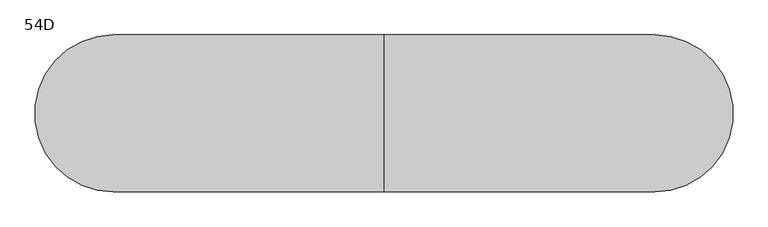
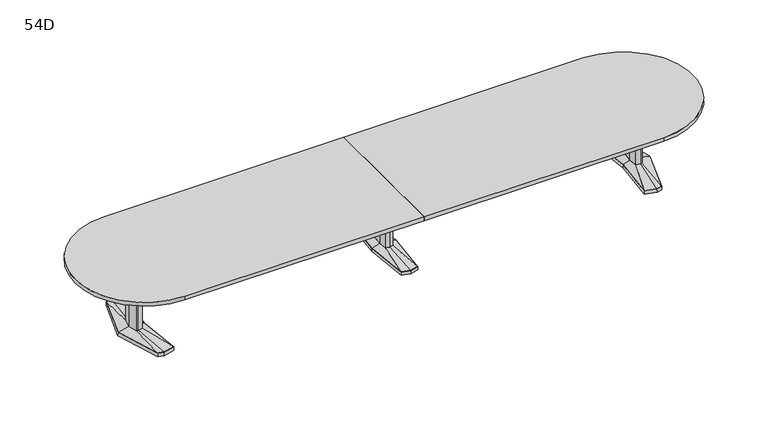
"""IFC4 building model written with IfcOpenShell, lengths in millimetres: furniture geometry, Coalesse_AM_Table_Conference_ETable2_Racetrack_20ft_AluminiumBase : 54D."""

from ifc_helpers import new_model, si_unit, point, frame, frame_2d, origin, place, context, project, spatial, polyline, circle_curve, trimmed, segment, composite_curve, outline, extrude, faceted_brep, source, transform, mapped, element, save
from ifc_brep_helpers import plane_surface, spline_surface, advanced_brep


def furniture_54d_be0ee450(model_context):
    return source(origin(), model_context, "Body", "SolidModel", [
        faceted_brep([(-81.2333791, -433.8053819, 38.1), (0.0, -455.556576, 38.1), (81.2333791, -433.8053819, 38.1), (119.0564774, 0.0, 38.1), (81.2333791, 433.8053819, 38.1), (0.0, 455.556576, 38.1), (-81.2333791, 433.8053819, 38.1), (-119.0564774, 0.0, 38.1), (-82.7182795, -435.0512063, 3.175), (-120.65, 0.0, 3.175), (-82.7182795, 435.0512063, 3.175), (0.0, 457.2, 3.175), (82.7182795, 435.0512063, 3.175), (120.65, 0.0, 3.175), (82.7182795, -435.0512063, 3.175), (0.0, -457.2, 3.175), (0.0, 429.2617927, 3.175), (-77.9676806, 408.3850278, 3.175), (-74.7019821, 382.9646737, 3.175), (0.0, 402.9670094, 3.175), (74.7019821, 382.9646737, 3.175), (77.9676806, 408.3850278, 3.175), (0.0, -429.2617927, 3.175), (77.9676806, -408.3850278, 3.175), (74.7019821, -382.9646737, 3.175), (0.0, -402.9670094, 3.175), (-74.7019821, -382.9646737, 3.175), (-77.9676806, -408.3850278, 3.175), (-71.8574262, 114.6326257, 3.175), (-82.5426076, 0.0, 3.175), (-71.8574262, -114.6326257, 3.175), (0.0, -133.8761372, 3.175), (71.8574262, -114.6326257, 3.175), (82.5426076, 0.0, 3.175), (71.8574262, 114.6326257, 3.175), (0.0, 133.8761372, 3.175), (0.0, 429.2617927, 0.0), (77.9676806, 408.3850278, 0.0), (74.7019821, 382.9646737, 0.0), (0.0, 402.9670094, 0.0), (-74.7019821, 382.9646737, 0.0), (-77.9676806, 408.3850278, 0.0), (0.0, -429.2617927, 0.0), (-77.9676806, -408.3850278, 0.0), (-74.7019821, -382.9646737, 0.0), (0.0, -402.9670094, 0.0), (74.7019821, -382.9646737, 0.0), (77.9676806, -408.3850278, 0.0), (-71.8574262, 114.6326257, 0.0), (0.0, 133.8761372, 0.0), (71.8574262, 114.6326257, 0.0), (82.5426076, 0.0, 0.0), (71.8574262, -114.6326257, 0.0), (0.0, -133.8761372, 0.0), (-71.8574262, -114.6326257, 0.0), (-82.5426076, 0.0, 0.0)], [[[0, 1, 2, 3, 4, 5, 6, 7]], [[8, 9, 10, 11, 12, 13, 14, 15], [16, 17, 18, 19, 20, 21], [22, 23, 24, 25, 26, 27], [28, 29, 30, 31, 32, 33, 34, 35]], [[1, 0, 8, 15]], [[2, 1, 15, 14]], [[3, 2, 14, 13]], [[4, 3, 13, 12]], [[5, 4, 12, 11]], [[6, 5, 11, 10]], [[7, 6, 10, 9]], [[0, 7, 9, 8]], [[36, 37, 38, 39, 40, 41]], [[42, 43, 44, 45, 46, 47]], [[48, 49, 50, 51, 52, 53, 54, 55]], [[36, 41, 17, 16]], [[41, 40, 18, 17]], [[40, 39, 19, 18]], [[39, 38, 20, 19]], [[38, 37, 21, 20]], [[37, 36, 16, 21]], [[42, 47, 23, 22]], [[47, 46, 24, 23]], [[46, 45, 25, 24]], [[45, 44, 26, 25]], [[44, 43, 27, 26]], [[43, 42, 22, 27]], [[48, 55, 29, 28]], [[55, 54, 30, 29]], [[54, 53, 31, 30]], [[53, 52, 32, 31]], [[52, 51, 33, 32]], [[51, 50, 34, 33]], [[50, 49, 35, 34]], [[49, 48, 28, 35]]]),
        faceted_brep([(-36.3832834, 84.6900825, 698.5), (-44.2774487, 0.0, 698.5), (-36.3832834, -84.6900825, 698.5), (0.0, -94.4335728, 698.5), (36.3832834, -84.6900825, 698.5), (44.2774487, 0.0, 698.5), (36.3832834, 84.6900825, 698.5), (0.0, 94.4335728, 698.5), (-36.3832834, 84.6900825, 63.5), (0.0, 94.4335728, 63.5), (36.3832834, 84.6900825, 63.5), (44.2774487, 0.0, 63.5), (36.3832834, -84.6900825, 63.5), (0.0, -94.4335728, 63.5), (-36.3832834, -84.6900825, 63.5), (-44.2774487, 0.0, 63.5)], [[[0, 1, 2, 3, 4, 5, 6, 7]], [[8, 9, 10, 11, 12, 13, 14, 15]], [[1, 0, 8, 15]], [[2, 1, 15, 14]], [[3, 2, 14, 13]], [[4, 3, 13, 12]], [[5, 4, 12, 11]], [[6, 5, 11, 10]], [[7, 6, 10, 9]], [[0, 7, 9, 8]]]),
        advanced_brep(
        [(-36.3832834, 84.6900825, 63.5), (-44.2774487, 0.0, 63.5), (-36.3832834, -84.6900825, 63.5), (0.0, -94.4335728, 63.5), (36.3832834, -84.6900825, 63.5), (44.2774487, 0.0, 63.5), (36.3832834, 84.6900825, 63.5), (0.0, 94.4335728, 63.5), (-81.2333791, 433.8053819, 38.1), (0.0, 455.556576, 38.1), (81.2333791, 433.8053819, 38.1), (119.0564774, 0.0, 38.1), (81.2333791, -433.8053819, 38.1), (0.0, -455.556576, 38.1), (-81.2333791, -433.8053819, 38.1), (-119.0564774, 0.0, 38.1)],
        [
            (0, 1),
            (1, 2),
            (2, 3),
            (3, 4),
            (4, 5),
            (5, 6),
            (6, 7),
            (7, 0),
            (8, 9),
            (9, 10),
            (10, 11),
            (11, 12),
            (12, 13),
            (13, 14),
            (14, 15),
            (15, 8),
            (15, 1),
            (0, 8),
            (14, 2),
            (13, 3),
            (12, 4),
            (11, 5),
            (10, 6),
            (9, 7),
        ],
        [
            plane_surface(frame((0.0, 0.0, 63.5), z_axis=(0.0, 0.0, 1.0000000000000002), x_axis=(-0.9659615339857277, -0.25868574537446, 0.0))),
            plane_surface(frame((0.0, 0.0, 38.1), z_axis=(0.0, 0.0, -1.0000000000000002), x_axis=(-0.9659615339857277, -0.25868574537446, 0.0))),
            spline_surface(1, 1, [[(-81.2333791, 433.8053819, 38.1), (-36.3832834, 84.6900825, 63.5)], [(-119.0564774, 0.0, 38.1), (-44.2774487, 0.0, 63.5)]], [2, 2], [2, 2], [0.0, 1.0], [0.0, 1.0]),
            spline_surface(1, 1, [[(-119.0564774, 0.0, 38.1), (-44.2774487, 0.0, 63.5)], [(-81.2333791, -433.8053819, 38.1), (-36.3832834, -84.6900825, 63.5)]], [2, 2], [2, 2], [0.0, 1.0], [0.0, 1.0]),
            spline_surface(1, 1, [[(-81.2333791, -433.8053819, 38.1), (-36.3832834, -84.6900825, 63.5)], [(0.0, -455.556576, 38.1), (0.0, -94.4335728, 63.5)]], [2, 2], [2, 2], [0.0, 1.0], [0.0, 1.0]),
            spline_surface(1, 1, [[(0.0, -455.556576, 38.1), (0.0, -94.4335728, 63.5)], [(81.2333791, -433.8053819, 38.1), (36.3832834, -84.6900825, 63.5)]], [2, 2], [2, 2], [0.0, 1.0], [0.0, 1.0]),
            spline_surface(1, 1, [[(81.2333791, -433.8053819, 38.1), (36.3832834, -84.6900825, 63.5)], [(119.0564774, 0.0, 38.1), (44.2774487, 0.0, 63.5)]], [2, 2], [2, 2], [0.0, 1.0], [0.0, 1.0]),
            spline_surface(1, 1, [[(119.0564774, 0.0, 38.1), (44.2774487, 0.0, 63.5)], [(81.2333791, 433.8053819, 38.1), (36.3832834, 84.6900825, 63.5)]], [2, 2], [2, 2], [0.0, 1.0], [0.0, 1.0]),
            spline_surface(1, 1, [[(81.2333791, 433.8053819, 38.1), (36.3832834, 84.6900825, 63.5)], [(0.0, 455.556576, 38.1), (0.0, 94.4335728, 63.5)]], [2, 2], [2, 2], [0.0, 1.0], [0.0, 1.0]),
            spline_surface(1, 1, [[(0.0, 455.556576, 38.1), (0.0, 94.4335728, 63.5)], [(-81.2333791, 433.8053819, 38.1), (-36.3832834, 84.6900825, 63.5)]], [2, 2], [2, 2], [0.0, 1.0], [0.0, 1.0]),
        ],
        [
            (0, [[1, 2, 3, 4, 5, 6, 7, 8]]),
            (1, [[9, 10, 11, 12, 13, 14, 15, 16]]),
            (2, [[-16, 17, -1, 18]]),
            (3, [[-15, 19, -2, -17]]),
            (4, [[-14, 20, -3, -19]]),
            (5, [[-13, 21, -4, -20]]),
            (6, [[-12, 22, -5, -21]]),
            (7, [[-11, 23, -6, -22]]),
            (8, [[-10, 24, -7, -23]]),
            (9, [[-9, -18, -8, -24]]),
        ],
    ),
        faceted_brep([(2429.8306835, 455.5848221, 38.1), (2320.2531277, 426.2263816, 38.1), (2361.4163717, 0.0, 38.1), (2320.2531277, -426.2263816, 38.1), (2429.8306835, -455.5848221, 38.1), (2485.9570396, -440.5478297, 38.1), (2623.2684269, 0.0, 38.1), (2485.9570396, 440.5478297, 38.1), (2429.8306754, 457.2283104, 3.175), (2487.2124472, 441.8549756, 3.175), (2624.93125, 0.0, 3.175), (2487.2124472, -441.8549756, 3.175), (2429.8306754, -457.2283104, 3.175), (2318.54375, -427.4118891, 3.175), (2359.8214856, 0.0, 3.175), (2318.54375, 427.4118891, 3.175), (2433.420115, 428.3273875, 3.175), (2328.3718228, 402.1057253, 3.175), (2336.490518, 377.985069, 3.175), (2437.0095466, 401.0699529, 3.175), (2487.5691725, 387.524361, 3.175), (2486.7631061, 414.0360954, 3.175), (2433.420115, -428.3273875, 3.175), (2486.7631061, -414.0360954, 3.175), (2487.5691725, -387.524361, 3.175), (2437.0095466, -401.0699529, 3.175), (2336.490518, -377.985069, 3.175), (2328.3718228, -402.1057253, 3.175), (2560.0153621, 0.0, 3.175), (2527.7459611, 120.4193755, 3.175), (2479.0987222, 133.471665, 3.175), (2399.2180526, 119.4176561, 3.175), (2388.0868466, 0.0, 3.175), (2399.2180526, -119.4176561, 3.175), (2479.0987222, -133.471665, 3.175), (2527.7459611, -120.4193755, 3.175), (2433.420115, 428.3273875, 0.0), (2486.7631061, 414.0360954, 0.0), (2487.5691725, 387.524361, 0.0), (2437.0095466, 401.0699529, 0.0), (2336.490518, 377.985069, 0.0), (2328.3718228, 402.1057253, 0.0), (2433.420115, -428.3273875, 0.0), (2328.3718228, -402.1057253, 0.0), (2336.490518, -377.985069, 0.0), (2437.0095466, -401.0699529, 0.0), (2487.5691725, -387.524361, 0.0), (2486.7631061, -414.0360954, 0.0), (2560.0153621, 0.0, 0.0), (2527.7459611, -120.4193755, 0.0), (2479.0987222, -133.471665, 0.0), (2399.2180526, -119.4176561, 0.0), (2388.0868466, 0.0, 0.0), (2399.2180526, 119.4176561, 0.0), (2479.0987222, 133.471665, 0.0), (2527.7459611, 120.4193755, 0.0)], [[[0, 1, 2, 3, 4, 5, 6, 7]], [[8, 9, 10, 11, 12, 13, 14, 15], [16, 17, 18, 19, 20, 21], [22, 23, 24, 25, 26, 27], [28, 29, 30, 31, 32, 33, 34, 35]], [[7, 9, 8, 0]], [[6, 10, 9, 7]], [[5, 11, 10, 6]], [[4, 12, 11, 5]], [[3, 13, 12, 4]], [[2, 14, 13, 3]], [[1, 15, 14, 2]], [[0, 8, 15, 1]], [[36, 37, 38, 39, 40, 41]], [[42, 43, 44, 45, 46, 47]], [[48, 49, 50, 51, 52, 53, 54, 55]], [[36, 16, 21, 37]], [[37, 21, 20, 38]], [[38, 20, 19, 39]], [[39, 19, 18, 40]], [[40, 18, 17, 41]], [[41, 17, 16, 36]], [[42, 22, 27, 43]], [[43, 27, 26, 44]], [[44, 26, 25, 45]], [[45, 25, 24, 46]], [[46, 24, 23, 47]], [[47, 23, 22, 42]], [[48, 28, 35, 49]], [[49, 35, 34, 50]], [[50, 34, 33, 51]], [[51, 33, 32, 52]], [[52, 32, 31, 53]], [[53, 31, 30, 54]], [[54, 30, 29, 55]], [[55, 29, 28, 48]]]),
        faceted_brep([(2520.5710836, 0.0, 698.5), (2496.6358546, 89.3188359, 698.5), (2479.7824984, 93.8406728, 698.5), (2477.3826511, 94.4845635, 698.5), (2434.455146, 86.9320037, 698.5), (2426.3520056, 0.0, 698.5), (2434.455146, -86.9320037, 698.5), (2477.3826511, -94.4845635, 698.5), (2479.7824984, -93.8406728, 698.5), (2496.6358546, -89.3188359, 698.5), (2520.5710836, 0.0, 63.5), (2496.6358546, -89.3188359, 63.5), (2479.7824984, -93.8406728, 63.5), (2477.3826511, -94.4845635, 63.5), (2434.455146, -86.9320037, 63.5), (2426.3520056, 0.0, 63.5), (2434.455146, 86.9320037, 63.5), (2477.3826511, 94.4845635, 63.5), (2479.7824984, 93.8406728, 63.5), (2496.6358546, 89.3188359, 63.5)], [[[0, 1, 2, 3, 4, 5, 6, 7, 8, 9]], [[10, 11, 12, 13, 14, 15, 16, 17, 18, 19]], [[9, 11, 10, 0]], [[8, 12, 11, 9]], [[7, 13, 12, 8]], [[6, 14, 13, 7]], [[5, 15, 14, 6]], [[4, 16, 15, 5]], [[3, 17, 16, 4]], [[2, 18, 17, 3]], [[1, 19, 18, 2]], [[0, 10, 19, 1]]]),
        advanced_brep(
        [(2477.3826511, 94.4845635, 63.5), (2434.455146, 86.9320037, 63.5), (2426.3520056, 0.0, 63.5), (2434.455146, -86.9320037, 63.5), (2477.3826511, -94.4845635, 63.5), (2496.6358546, -89.3188359, 63.5), (2520.5710836, 0.0, 63.5), (2496.6358546, 89.3188359, 63.5), (2429.8306835, 455.5848221, 38.1), (2485.9570396, 440.5478297, 38.1), (2623.2684269, 0.0, 38.1), (2485.9570396, -440.5478297, 38.1), (2429.8306835, -455.5848221, 38.1), (2320.2531277, -426.2263816, 38.1), (2361.4163717, 0.0, 38.1), (2320.2531277, 426.2263816, 38.1)],
        [
            (0, 1),
            (1, 2),
            (2, 3),
            (3, 4),
            (4, 5),
            (5, 6),
            (6, 7),
            (7, 0),
            (8, 9),
            (9, 10),
            (10, 11),
            (11, 12),
            (12, 13),
            (13, 14),
            (14, 15),
            (15, 8),
            (8, 0),
            (7, 9),
            (6, 10),
            (5, 11),
            (4, 12),
            (3, 13),
            (2, 14),
            (1, 15),
        ],
        [
            plane_surface(frame((2470.4837991, 0.0, 63.5), z_axis=(0.0, 0.0, 1.0), x_axis=(-0.25884244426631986, -0.9659195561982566, 0.0))),
            plane_surface(frame((2432.0958125, 0.0, 38.1), z_axis=(0.0, 0.0, -1.0), x_axis=(-0.25884244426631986, -0.9659195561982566, 0.0))),
            spline_surface(1, 1, [[(2429.8306835, 455.5848221, 38.1), (2485.9570396, 440.5478297, 38.1)], [(2477.3826511, 94.4845635, 63.5), (2496.6358546, 89.3188359, 63.5)]], [2, 2], [2, 2], [0.0, 1.0], [0.0, 1.0]),
            spline_surface(1, 1, [[(2485.9570396, 440.5478297, 38.1), (2623.2684269, 0.0, 38.1)], [(2496.6358546, 89.3188359, 63.5), (2520.5710836, 0.0, 63.5)]], [2, 2], [2, 2], [0.0, 1.0], [0.0, 1.0]),
            spline_surface(1, 1, [[(2623.2684269, 0.0, 38.1), (2485.9570396, -440.5478297, 38.1)], [(2520.5710836, 0.0, 63.5), (2496.6358546, -89.3188359, 63.5)]], [2, 2], [2, 2], [0.0, 1.0], [0.0, 1.0]),
            spline_surface(1, 1, [[(2485.9570396, -440.5478297, 38.1), (2429.8306835, -455.5848221, 38.1)], [(2496.6358546, -89.3188359, 63.5), (2477.3826511, -94.4845635, 63.5)]], [2, 2], [2, 2], [0.0, 1.0], [0.0, 1.0]),
            spline_surface(1, 1, [[(2429.8306835, -455.5848221, 38.1), (2320.2531277, -426.2263816, 38.1)], [(2477.3826511, -94.4845635, 63.5), (2434.455146, -86.9320037, 63.5)]], [2, 2], [2, 2], [0.0, 1.0], [0.0, 1.0]),
            spline_surface(1, 1, [[(2320.2531277, -426.2263816, 38.1), (2361.4163717, 0.0, 38.1)], [(2434.455146, -86.9320037, 63.5), (2426.3520056, 0.0, 63.5)]], [2, 2], [2, 2], [0.0, 1.0], [0.0, 1.0]),
            spline_surface(1, 1, [[(2361.4163717, 0.0, 38.1), (2320.2531277, 426.2263816, 38.1)], [(2426.3520056, 0.0, 63.5), (2434.455146, 86.9320037, 63.5)]], [2, 2], [2, 2], [0.0, 1.0], [0.0, 1.0]),
            spline_surface(1, 1, [[(2320.2531277, 426.2263816, 38.1), (2429.8306835, 455.5848221, 38.1)], [(2434.455146, 86.9320037, 63.5), (2477.3826511, 94.4845635, 63.5)]], [2, 2], [2, 2], [0.0, 1.0], [0.0, 1.0]),
        ],
        [
            (0, [[1, 2, 3, 4, 5, 6, 7, 8]]),
            (1, [[9, 10, 11, 12, 13, 14, 15, 16]]),
            (2, [[17, -8, 18, -9]]),
            (3, [[-18, -7, 19, -10]]),
            (4, [[-19, -6, 20, -11]]),
            (5, [[-20, -5, 21, -12]]),
            (6, [[-21, -4, 22, -13]]),
            (7, [[-22, -3, 23, -14]]),
            (8, [[-23, -2, 24, -15]]),
            (9, [[-24, -1, -17, -16]]),
        ],
    ),
        faceted_brep([(-2429.8306835, 455.5848221, 38.1), (-2485.9570396, 440.5478297, 38.1), (-2623.2684269, 0.0, 38.1), (-2485.9570396, -440.5478297, 38.1), (-2429.8306835, -455.5848221, 38.1), (-2320.2531277, -426.2263816, 38.1), (-2361.4163717, 0.0, 38.1), (-2320.2531277, 426.2263816, 38.1), (-2429.8306754, 457.2283104, 3.175), (-2318.54375, 427.4118891, 3.175), (-2359.8214856, 0.0, 3.175), (-2318.54375, -427.4118891, 3.175), (-2429.8306754, -457.2283104, 3.175), (-2487.2124472, -441.8549756, 3.175), (-2624.93125, 0.0, 3.175), (-2487.2124472, 441.8549756, 3.175), (-2433.420115, 428.3273875, 3.175), (-2486.7631061, 414.0360954, 3.175), (-2487.5691725, 387.524361, 3.175), (-2437.0095466, 401.0699529, 3.175), (-2336.490518, 377.985069, 3.175), (-2328.3718228, 402.1057253, 3.175), (-2433.420115, -428.3273875, 3.175), (-2328.3718228, -402.1057253, 3.175), (-2336.490518, -377.985069, 3.175), (-2437.0095466, -401.0699529, 3.175), (-2487.5691725, -387.524361, 3.175), (-2486.7631061, -414.0360954, 3.175), (-2560.0153621, 0.0, 3.175), (-2527.7459611, -120.4193755, 3.175), (-2479.0987222, -133.471665, 3.175), (-2399.2180526, -119.4176561, 3.175), (-2388.0868466, 0.0, 3.175), (-2399.2180526, 119.4176561, 3.175), (-2479.0987222, 133.471665, 3.175), (-2527.7459611, 120.4193755, 3.175), (-2433.420115, 428.3273875, 0.0), (-2328.3718228, 402.1057253, 0.0), (-2336.490518, 377.985069, 0.0), (-2437.0095466, 401.0699529, 0.0), (-2487.5691725, 387.524361, 0.0), (-2486.7631061, 414.0360954, 0.0), (-2433.420115, -428.3273875, 0.0), (-2486.7631061, -414.0360954, 0.0), (-2487.5691725, -387.524361, 0.0), (-2437.0095466, -401.0699529, 0.0), (-2336.490518, -377.985069, 0.0), (-2328.3718228, -402.1057253, 0.0), (-2560.0153621, 0.0, 0.0), (-2527.7459611, 120.4193755, 0.0), (-2479.0987222, 133.471665, 0.0), (-2399.2180526, 119.4176561, 0.0), (-2388.0868466, 0.0, 0.0), (-2399.2180526, -119.4176561, 0.0), (-2479.0987222, -133.471665, 0.0), (-2527.7459611, -120.4193755, 0.0)], [[[0, 1, 2, 3, 4, 5, 6, 7]], [[8, 9, 10, 11, 12, 13, 14, 15], [16, 17, 18, 19, 20, 21], [22, 23, 24, 25, 26, 27], [28, 29, 30, 31, 32, 33, 34, 35]], [[1, 0, 8, 15]], [[2, 1, 15, 14]], [[3, 2, 14, 13]], [[4, 3, 13, 12]], [[5, 4, 12, 11]], [[6, 5, 11, 10]], [[7, 6, 10, 9]], [[0, 7, 9, 8]], [[36, 37, 38, 39, 40, 41]], [[42, 43, 44, 45, 46, 47]], [[48, 49, 50, 51, 52, 53, 54, 55]], [[36, 41, 17, 16]], [[41, 40, 18, 17]], [[40, 39, 19, 18]], [[39, 38, 20, 19]], [[38, 37, 21, 20]], [[37, 36, 16, 21]], [[42, 47, 23, 22]], [[47, 46, 24, 23]], [[46, 45, 25, 24]], [[45, 44, 26, 25]], [[44, 43, 27, 26]], [[43, 42, 22, 27]], [[48, 55, 29, 28]], [[55, 54, 30, 29]], [[54, 53, 31, 30]], [[53, 52, 32, 31]], [[52, 51, 33, 32]], [[51, 50, 34, 33]], [[50, 49, 35, 34]], [[49, 48, 28, 35]]]),
        faceted_brep([(-2520.5710836, 0.0, 698.5), (-2496.6358546, -89.3188359, 698.5), (-2479.7824984, -93.8406728, 698.5), (-2477.3826511, -94.4845635, 698.5), (-2434.455146, -86.9320037, 698.5), (-2426.3520056, 0.0, 698.5), (-2434.455146, 86.9320037, 698.5), (-2477.3826511, 94.4845635, 698.5), (-2479.7824984, 93.8406728, 698.5), (-2496.6358546, 89.3188359, 698.5), (-2520.5710836, 0.0, 63.5), (-2496.6358546, 89.3188359, 63.5), (-2479.7824984, 93.8406728, 63.5), (-2477.3826511, 94.4845635, 63.5), (-2434.455146, 86.9320037, 63.5), (-2426.3520056, 0.0, 63.5), (-2434.455146, -86.9320037, 63.5), (-2477.3826511, -94.4845635, 63.5), (-2479.7824984, -93.8406728, 63.5), (-2496.6358546, -89.3188359, 63.5)], [[[0, 1, 2, 3, 4, 5, 6, 7, 8, 9]], [[10, 11, 12, 13, 14, 15, 16, 17, 18, 19]], [[1, 0, 10, 19]], [[2, 1, 19, 18]], [[3, 2, 18, 17]], [[4, 3, 17, 16]], [[5, 4, 16, 15]], [[6, 5, 15, 14]], [[7, 6, 14, 13]], [[8, 7, 13, 12]], [[9, 8, 12, 11]], [[0, 9, 11, 10]]]),
        advanced_brep(
        [(-2477.3826511, 94.4845635, 63.5), (-2496.6358546, 89.3188359, 63.5), (-2520.5710836, 0.0, 63.5), (-2496.6358546, -89.3188359, 63.5), (-2477.3826511, -94.4845635, 63.5), (-2434.455146, -86.9320037, 63.5), (-2426.3520056, 0.0, 63.5), (-2434.455146, 86.9320037, 63.5), (-2429.8306835, 455.5848221, 38.1), (-2320.2531277, 426.2263816, 38.1), (-2361.4163717, 0.0, 38.1), (-2320.2531277, -426.2263816, 38.1), (-2429.8306835, -455.5848221, 38.1), (-2485.9570396, -440.5478297, 38.1), (-2623.2684269, 0.0, 38.1), (-2485.9570396, 440.5478297, 38.1)],
        [
            (0, 1),
            (1, 2),
            (2, 3),
            (3, 4),
            (4, 5),
            (5, 6),
            (6, 7),
            (7, 0),
            (8, 9),
            (9, 10),
            (10, 11),
            (11, 12),
            (12, 13),
            (13, 14),
            (14, 15),
            (15, 8),
            (15, 1),
            (0, 8),
            (14, 2),
            (13, 3),
            (12, 4),
            (11, 5),
            (10, 6),
            (9, 7),
        ],
        [
            plane_surface(frame((-2470.4837991, 0.0, 63.5), z_axis=(0.0, 0.0, 1.0), x_axis=(0.25884244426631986, -0.9659195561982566, 0.0))),
            plane_surface(frame((-2432.0958125, 0.0, 38.1), z_axis=(0.0, 0.0, -1.0), x_axis=(0.25884244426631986, -0.9659195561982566, 0.0))),
            spline_surface(1, 1, [[(-2429.8306835, 455.5848221, 38.1), (-2477.3826511, 94.4845635, 63.5)], [(-2485.9570396, 440.5478297, 38.1), (-2496.6358546, 89.3188359, 63.5)]], [2, 2], [2, 2], [0.0, 1.0], [0.0, 1.0]),
            spline_surface(1, 1, [[(-2485.9570396, 440.5478297, 38.1), (-2496.6358546, 89.3188359, 63.5)], [(-2623.2684269, 0.0, 38.1), (-2520.5710836, 0.0, 63.5)]], [2, 2], [2, 2], [0.0, 1.0], [0.0, 1.0]),
            spline_surface(1, 1, [[(-2623.2684269, 0.0, 38.1), (-2520.5710836, 0.0, 63.5)], [(-2485.9570396, -440.5478297, 38.1), (-2496.6358546, -89.3188359, 63.5)]], [2, 2], [2, 2], [0.0, 1.0], [0.0, 1.0]),
            spline_surface(1, 1, [[(-2485.9570396, -440.5478297, 38.1), (-2496.6358546, -89.3188359, 63.5)], [(-2429.8306835, -455.5848221, 38.1), (-2477.3826511, -94.4845635, 63.5)]], [2, 2], [2, 2], [0.0, 1.0], [0.0, 1.0]),
            spline_surface(1, 1, [[(-2429.8306835, -455.5848221, 38.1), (-2477.3826511, -94.4845635, 63.5)], [(-2320.2531277, -426.2263816, 38.1), (-2434.455146, -86.9320037, 63.5)]], [2, 2], [2, 2], [0.0, 1.0], [0.0, 1.0]),
            spline_surface(1, 1, [[(-2320.2531277, -426.2263816, 38.1), (-2434.455146, -86.9320037, 63.5)], [(-2361.4163717, 0.0, 38.1), (-2426.3520056, 0.0, 63.5)]], [2, 2], [2, 2], [0.0, 1.0], [0.0, 1.0]),
            spline_surface(1, 1, [[(-2361.4163717, 0.0, 38.1), (-2426.3520056, 0.0, 63.5)], [(-2320.2531277, 426.2263816, 38.1), (-2434.455146, 86.9320037, 63.5)]], [2, 2], [2, 2], [0.0, 1.0], [0.0, 1.0]),
            spline_surface(1, 1, [[(-2320.2531277, 426.2263816, 38.1), (-2434.455146, 86.9320037, 63.5)], [(-2429.8306835, 455.5848221, 38.1), (-2477.3826511, 94.4845635, 63.5)]], [2, 2], [2, 2], [0.0, 1.0], [0.0, 1.0]),
        ],
        [
            (0, [[1, 2, 3, 4, 5, 6, 7, 8]]),
            (1, [[9, 10, 11, 12, 13, 14, 15, 16]]),
            (2, [[-16, 17, -1, 18]]),
            (3, [[-15, 19, -2, -17]]),
            (4, [[-14, 20, -3, -19]]),
            (5, [[-13, 21, -4, -20]]),
            (6, [[-12, 22, -5, -21]]),
            (7, [[-11, 23, -6, -22]]),
            (8, [[-10, 24, -7, -23]]),
            (9, [[-9, -18, -8, -24]]),
        ],
    ),
        extrude(outline(polyline([(96.8375, 698.5), (103.1875, 698.5), (103.1875, 476.25), (-103.1875, 476.25), (-103.1875, 698.5), (-96.8375, 698.5), (-96.8375, 482.6), (96.8375, 482.6), (96.8375, 698.5)])), frame((44.2774487, 0.0, 0.0), z_axis=(1.0, 0.0, 0.0), x_axis=(0.0, 1.0, 0.0)), (0.0, 0.0, 1.0), 2382.2163013),
        extrude(outline(composite_curve([segment(trimmed(circle_curve(frame_2d((2362.2, 0.0)), 685.8), [point((2362.2, 685.8))], [point((2362.2, -685.8))], False, "CARTESIAN"), True, "CONTINUOUS"), segment(polyline([(2362.2, -685.8), (0.0, -685.8), (0.0, 685.8), (2362.2, 685.8)]), True, "CONTINUOUS")], self_intersect=False)), frame((0.0, 0.0, 698.5), z_axis=(0.0, 0.0, 1.0), x_axis=(1.0, 0.0, 0.0)), (0.0, 0.0, 1.0), 38.1),
        extrude(outline(composite_curve([segment(polyline([(0.0, 685.8), (0.0, -685.8), (-2362.2, -685.8)]), True, "CONTINUOUS"), segment(trimmed(circle_curve(frame_2d((-2362.2, 0.0)), 685.8), [point((-2362.2, -685.8))], [point((-2362.2, 685.8))], False, "CARTESIAN"), True, "CONTINUOUS"), segment(polyline([(-2362.2, 685.8), (0.0, 685.8)]), True, "CONTINUOUS")], self_intersect=False)), frame((0.0, 0.0, 698.5), z_axis=(0.0, 0.0, 1.0), x_axis=(1.0, 0.0, 0.0)), (0.0, 0.0, 1.0), 38.1),
        extrude(outline(polyline([(96.8375, 698.5), (103.1875, 698.5), (103.1875, 476.25), (-103.1875, 476.25), (-103.1875, 698.5), (-96.8375, 698.5), (-96.8375, 482.6), (96.8375, 482.6), (96.8375, 698.5)])), frame((-2426.49375, 0.0, 0.0), z_axis=(1.0, 0.0, 0.0), x_axis=(0.0, 1.0, 0.0)), (0.0, 0.0, 1.0), 2382.2163013),
    ])


if __name__ == "__main__":
    model = new_model("IFC4")
    model_context = context("Model", 3, world=origin())
    ifc_project = project(units=[si_unit("LENGTHUNIT", "METRE", prefix="MILLI")], contexts=[model_context])
    site = spatial("IfcSite", under=ifc_project)
    building = spatial("IfcBuilding", under=site)
    placement = place(None, origin())
    furniture_54d_shape = furniture_54d_be0ee450(model_context)
    element("IfcFurniture", 1, ObjectType="Coalesse_AM_Table_Conference_ETable2_Racetrack_20ft_AluminiumBase : 54D", at=placement, inside=building, context=model_context, shape_type="MappedRepresentation", body=[
        mapped(furniture_54d_shape, transform((0.0, 0.0, 0.0), x_axis=(1.0, 0.0, 0.0), y_axis=(0.0, 1.0, 0.0), z_axis=(0.0, 0.0, 1.0))),
    ])
    save(model, "model.ifc")
